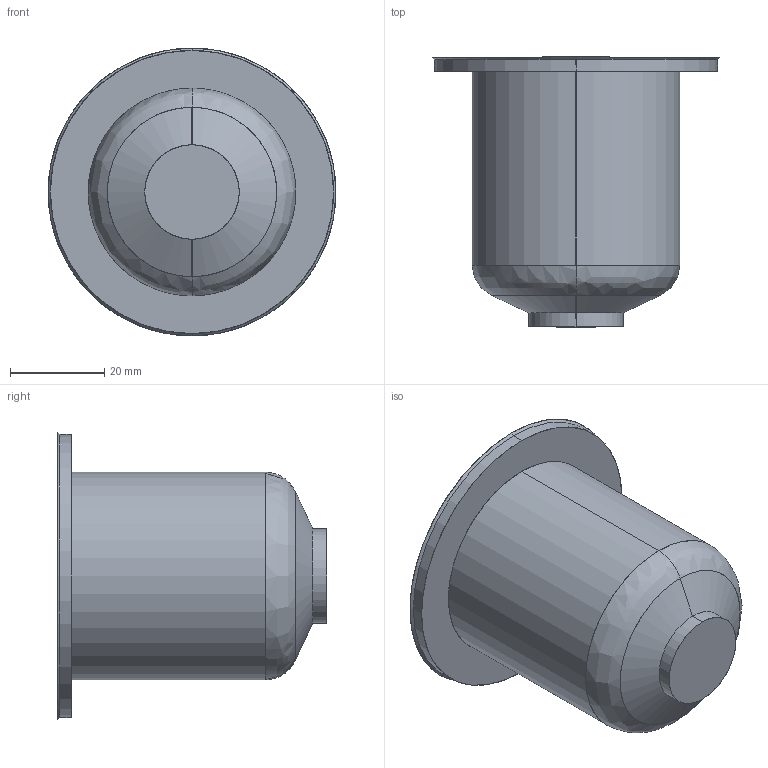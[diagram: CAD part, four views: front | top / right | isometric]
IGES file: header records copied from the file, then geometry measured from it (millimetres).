
Start section: SolidWorks IGES file using analytic representation for surfaces
Global section: file name: C:\Documents and Settings\ws-20\Desktop\TEM\Sede UGER6602-M-A C-54 L-99.IGS; native system: SolidWorks 2012; preprocessor: SolidWorks 2012; author: ws-20; date: 120417.105419; units: millimetre
Bounding box: 61 x 57.14 x 61 mm (x, y, z)
Surface area: 12815.6 mm2 (no closed solid volume)
Topology: 0 solids, 0 shells, 15 faces, 272 edges, 272 vertices
Faces by surface type: revolution 10, bspline 5
